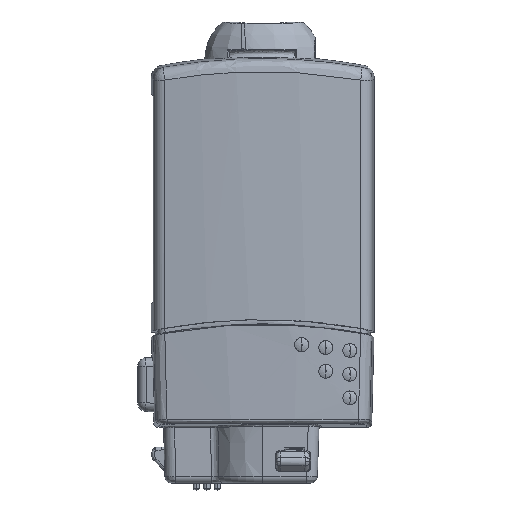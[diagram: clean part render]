
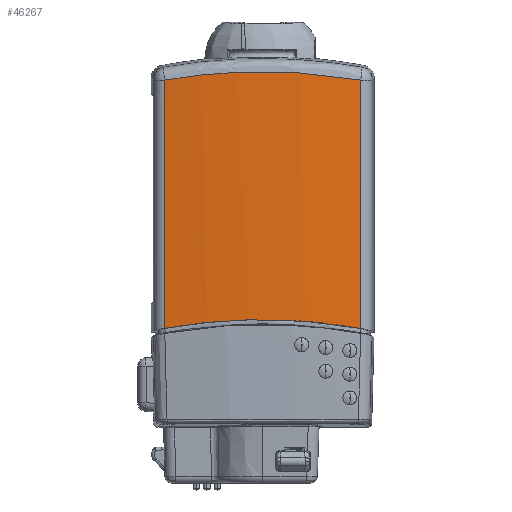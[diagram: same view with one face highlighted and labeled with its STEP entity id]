
A CAD part, left-side view. The second image highlights one B-rep face of the part: STEP entity #46267.
In plain terms, the highlighted cylindrical face has radius 127 mm (diameter 254 mm), a partial arc.
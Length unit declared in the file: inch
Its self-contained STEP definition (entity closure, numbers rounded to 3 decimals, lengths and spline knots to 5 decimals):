
#39787=DIRECTION('',(0.,0.,1.));
#39788=VECTOR('',#39787,1.77982);
#39789=CARTESIAN_POINT('',(-0.55038,-0.70266,
0.10885));
#39790=LINE('',#39789,#39788);
#39878=CARTESIAN_POINT('',(-0.55038,-0.70266,
0.10885));
#39879=CARTESIAN_POINT('',(-0.56123,-0.62619,
0.12255));
#39880=CARTESIAN_POINT('',(-0.5796,-0.47103,
0.14567));
#39881=CARTESIAN_POINT('',(-0.59627,-0.23663,
0.16661));
#39882=CARTESIAN_POINT('',(-0.60187,0.,
0.17363));
#39883=CARTESIAN_POINT('',(-0.59627,0.23663,
0.16661));
#39884=CARTESIAN_POINT('',(-0.5796,0.47103,
0.14567));
#39885=CARTESIAN_POINT('',(-0.56123,0.62619,
0.12255));
#39886=CARTESIAN_POINT('',(-0.55038,0.70266,
0.10885));
#39891=DIRECTION('',(0.,0.,1.));
#39892=VECTOR('',#39891,1.77982);
#39893=CARTESIAN_POINT('',(-0.55038,0.70266,
0.10885));
#39894=LINE('',#39893,#39892);
#39898=CARTESIAN_POINT('',(-0.55038,-0.70266,
1.88867));
#39899=CARTESIAN_POINT('',(-0.56146,-0.62463,
1.90207));
#39900=CARTESIAN_POINT('',(-0.57986,-0.46837,
1.9243));
#39901=CARTESIAN_POINT('',(-0.5963,-0.23506,
1.94411));
#39902=CARTESIAN_POINT('',(-0.60185,0.,
1.95079));
#39903=CARTESIAN_POINT('',(-0.5963,0.23505,
1.94411));
#39904=CARTESIAN_POINT('',(-0.57986,0.46838,
1.9243));
#39905=CARTESIAN_POINT('',(-0.56145,0.62464,
1.90207));
#39906=CARTESIAN_POINT('',(-0.55038,0.70266,
1.88867));
#40437=VERTEX_POINT('',#39878);
#40438=VERTEX_POINT('',#39886);
#40571=CARTESIAN_POINT('',(-0.55038,0.70266,
1.88867));
#40572=VERTEX_POINT('',#40571);
#40573=CARTESIAN_POINT('',(-0.55038,-0.70266,
1.88867));
#40574=VERTEX_POINT('',#40573);
#46256=CARTESIAN_POINT('',(4.4,0.,0.13082));
#46257=DIRECTION('',(0.,0.,1.));
#46258=DIRECTION('',(1.,0.,0.));
#46259=AXIS2_PLACEMENT_3D('',#46256,#46257,#46258);
#46260=CYLINDRICAL_SURFACE('',#46259,5.);
#46261=ORIENTED_EDGE('',*,*,#46246,.T.);
#46262=ORIENTED_EDGE('',*,*,#45817,.T.);
#46263=ORIENTED_EDGE('',*,*,#45884,.F.);
#46264=ORIENTED_EDGE('',*,*,#45911,.F.);
#46265=EDGE_LOOP('',(#46261,#46262,#46263,#46264));
#46266=FACE_OUTER_BOUND('',#46265,.F.);
#46267=ADVANCED_FACE('',(#46266),#46260,.T.);
#39887=B_SPLINE_CURVE_WITH_KNOTS('',3,(#39878,#39879,#39880,#39881,#39882,
#39883,#39884,#39885,#39886),.UNSPECIFIED.,.F.,.F.,(4,1,1,1,1,1,4),(0.,
0.16417,0.33209,0.5,0.66791,
0.83583,1.),.UNSPECIFIED.);
#39907=B_SPLINE_CURVE_WITH_KNOTS('',3,(#39898,#39899,#39900,#39901,#39902,
#39903,#39904,#39905,#39906),.UNSPECIFIED.,.F.,.F.,(4,1,1,1,1,1,4),(0.,
0.16667,0.33333,0.5,0.66667,0.83333,
1.),.UNSPECIFIED.);
#45817=EDGE_CURVE('',#40438,#40572,#39894,.T.);
#45884=EDGE_CURVE('',#40574,#40572,#39907,.T.);
#45911=EDGE_CURVE('',#40437,#40574,#39790,.T.);
#46246=EDGE_CURVE('',#40437,#40438,#39887,.T.);
